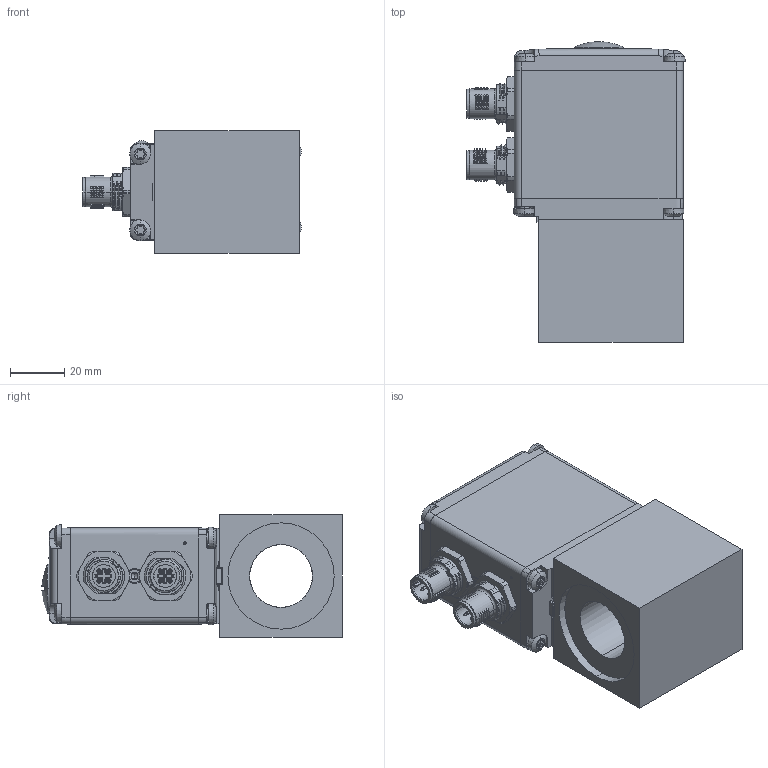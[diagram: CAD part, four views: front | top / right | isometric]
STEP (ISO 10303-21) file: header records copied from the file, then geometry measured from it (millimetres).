
FILE_DESCRIPTION (( 'STEP AP214' ), '1' );
FILE_NAME ('C1.STEP', '2017-03-24T09:51:55', ( '' ), ( '' ), 'SwSTEP 2.0', 'SolidWorks 2016', '' );
FILE_SCHEMA (( 'AUTOMOTIVE_DESIGN' ));
Length unit declared in the file: millimetre
Products named in the file (1): C1
Bounding box: 80.3 x 110.39 x 45 mm (x, y, z)
Volume: 208456.1 mm3; surface area: 52605.2 mm2
Topology: 14 solids, 51 shells, 2850 faces, 7614 edges, 4941 vertices
Faces by surface type: plane 1479, cylinder 880, torus 157, bspline 157, cone 145, sphere 32
Entity records: 220225 total; most frequent: CARTESIAN_POINT 120118, ORIENTED_EDGE 15176, DIRECTION 13560, EDGE_CURVE 7588, VERTEX_POINT 4941, VECTOR 4798, LINE 4798, AXIS2_PLACEMENT_3D 4381
